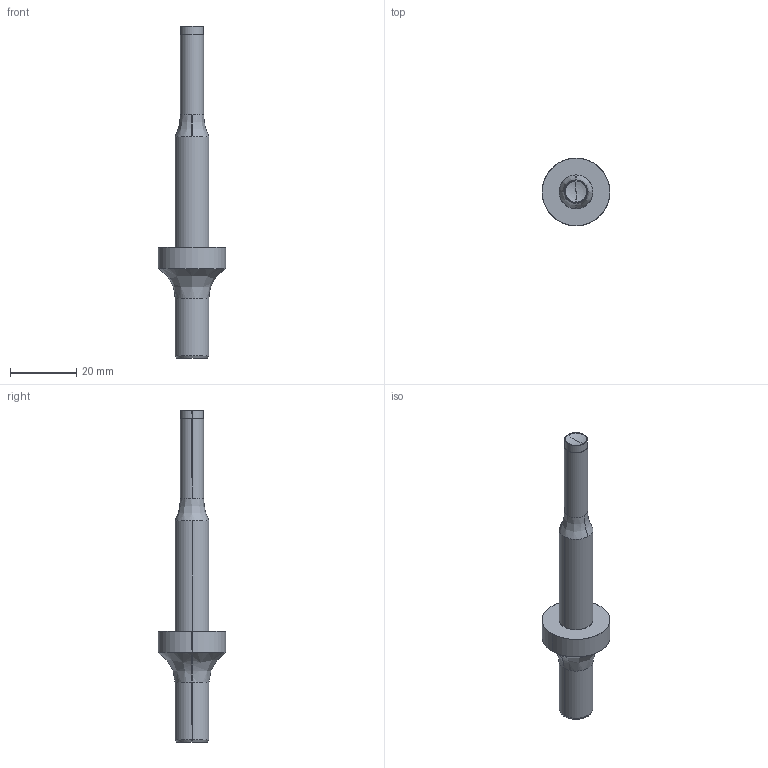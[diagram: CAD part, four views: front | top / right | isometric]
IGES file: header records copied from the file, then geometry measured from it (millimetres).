
Start section: SolidWorks IGES file using analytic representation for surfaces
Global section: file name: C:\Users\IanO\Desktop\SE0508_v2\SE0508_v2_20231218_IGES\SE0509.070-C.igs; native system: SolidWorks 2019; preprocessor: SolidWorks 2019; author: IanO; date: 231218.131523; units: millimetre
Bounding box: 20.38 x 20.38 x 100 mm (x, y, z)
Surface area: 3634.7 mm2 (no closed solid volume)
Topology: 0 solids, 0 shells, 22 faces, 304 edges, 304 vertices
Faces by surface type: revolution 14, bspline 8
